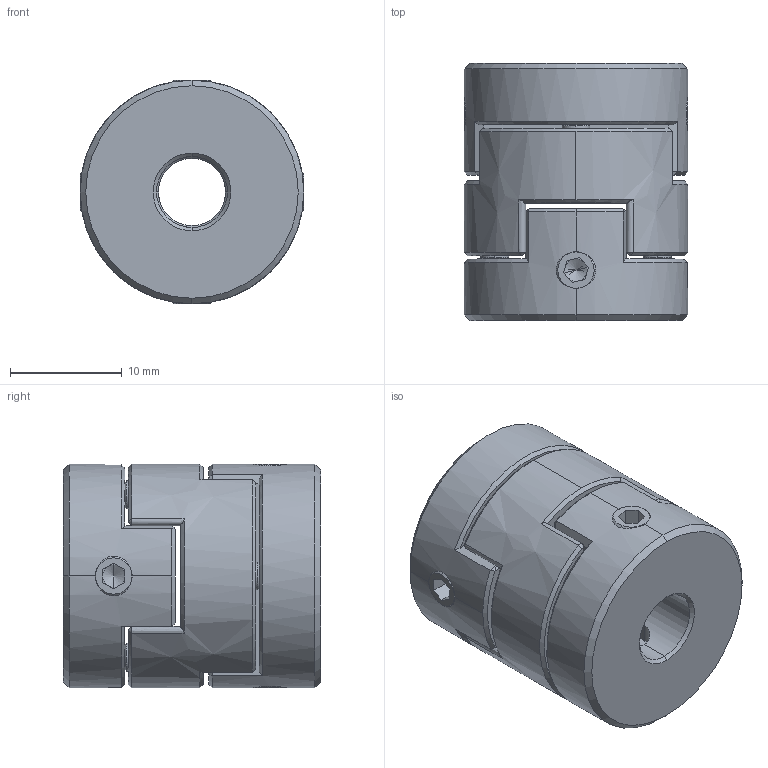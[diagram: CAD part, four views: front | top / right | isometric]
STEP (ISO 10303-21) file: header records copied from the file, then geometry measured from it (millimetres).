
FILE_DESCRIPTION (( 'STEP AP203' ), '1' );
FILE_NAME ('LZ-D-D20L23-6-6.35.STEP', '2021-10-30T01:44:09', ( '' ), ( '' ), 'SwSTEP 2.0', 'SolidWorks 2018', '' );
FILE_SCHEMA (( 'CONFIG_CONTROL_DESIGN' ));
Length unit declared in the file: millimetre
Products named in the file (1): LZ-D-D20L23-6-6.35
Bounding box: 20 x 23 x 20 mm (x, y, z)
Volume: 6143.7 mm3; surface area: 4117.9 mm2
Topology: 3 solids, 3 shells, 230 faces, 586 edges, 364 vertices
Faces by surface type: plane 116, cone 54, cylinder 34, bspline 26
Entity records: 9737 total; most frequent: CARTESIAN_POINT 4455, ORIENTED_EDGE 1156, DIRECTION 978, EDGE_CURVE 578, VERTEX_POINT 364, AXIS2_PLACEMENT_3D 357, VECTOR 264, LINE 264
